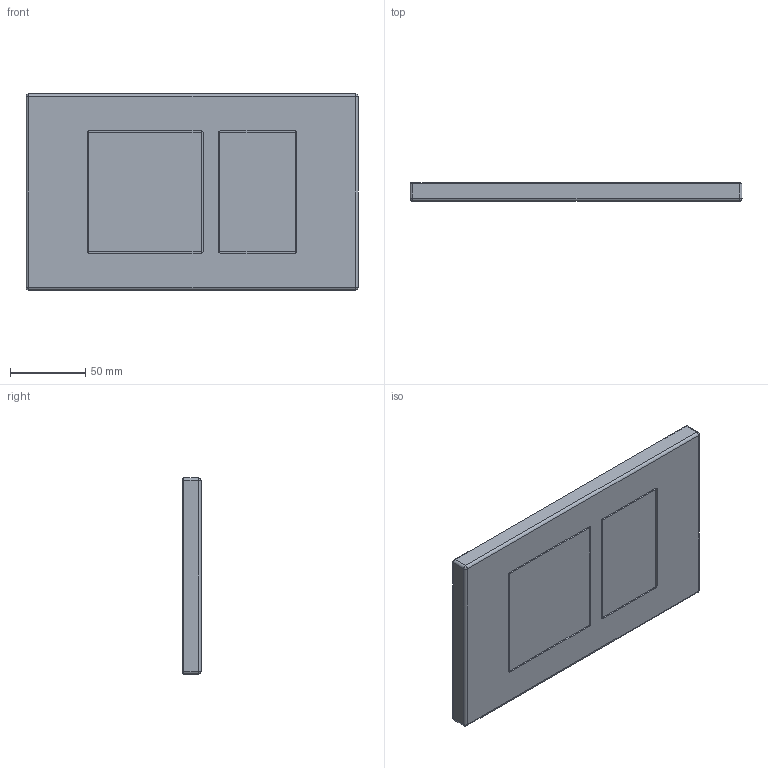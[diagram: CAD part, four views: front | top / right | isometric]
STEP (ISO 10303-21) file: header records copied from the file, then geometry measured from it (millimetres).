
FILE_DESCRIPTION(('STEP AP214'),'1');
FILE_NAME('1105764.stp','2023-03-02T11:16:50',('CAD-PIM'),('TransMagic R12'),'Spatial InterOp 3D',' ',' ');
FILE_SCHEMA(('AUTOMOTIVE_DESIGN { 1 0 10303 214 1 1 1 1 }'));
Length unit declared in the file: millimetre
Products named in the file (1): 1105764
Bounding box: 220 x 12.11 x 130 mm (x, y, z)
Volume: 341567.9 mm3; surface area: 72760.5 mm2
Topology: 1 solids, 1 shells, 139 faces, 623 edges, 504 vertices
Faces by surface type: bspline 139
Entity records: 15365 total; most frequent: CARTESIAN_POINT 3736, STYLED_ITEM 1267, PRESENTATION_STYLE_ASSIGNMENT 1267, COLOUR_RGB 1267, ORIENTED_EDGE 1246, DIRECTION 728, EDGE_CURVE 623, CURVE_STYLE 623
